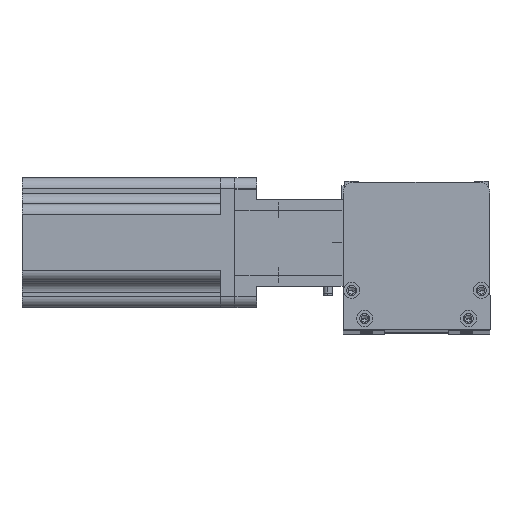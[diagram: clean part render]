
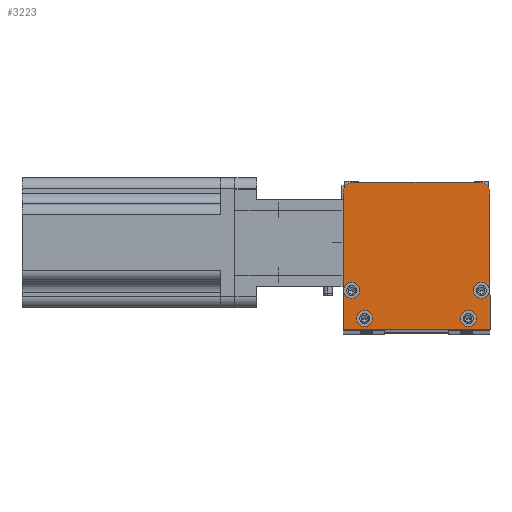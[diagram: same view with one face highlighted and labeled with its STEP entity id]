
A CAD part, top view. The second image highlights one B-rep face of the part: STEP entity #3223.
In plain terms, the highlighted planar face has unit normal (0, 0, 1) as drawn and (0, 0, -1) by its records, which use the part's own axes.
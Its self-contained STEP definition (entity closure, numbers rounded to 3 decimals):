
#271 = CARTESIAN_POINT ( 'NONE',  ( 63., 68., 0. ) ) ;
#816 = EDGE_LOOP ( 'NONE', ( #30148, #19702 ) ) ;
#979 = DIRECTION ( 'NONE',  ( 0., 0., -1. ) ) ;
#1112 = EDGE_CURVE ( 'NONE', #3498, #6331, #5614, .T. ) ;
#1460 = DIRECTION ( 'NONE',  ( 0., 1., 0. ) ) ;
#1582 = CIRCLE ( 'NONE', #14290, 3.75 ) ;
#1608 = CIRCLE ( 'NONE', #9067, 3.75 ) ;
#1624 = CARTESIAN_POINT ( 'NONE',  ( 10., 5., 0. ) ) ;
#1726 = DIRECTION ( 'NONE',  ( -1., 0., 0. ) ) ;
#1939 = VERTEX_POINT ( 'NONE', #13051 ) ;
#2523 = FACE_BOUND ( 'NONE', #6351, .T. ) ;
#2630 = AXIS2_PLACEMENT_3D ( 'NONE', #15929, #16876, #15136 ) ;
#3118 = EDGE_CURVE ( 'NONE', #23525, #24427, #11024, .T. ) ;
#3187 = DIRECTION ( 'NONE',  ( 0., 0., -1. ) ) ;
#3223 = ADVANCED_FACE ( 'NONE', ( #2523, #15002, #8847, #27305, #26590 ), #15537, .F. ) ;
#3498 = VERTEX_POINT ( 'NONE', #271 ) ;
#3578 = CARTESIAN_POINT ( 'NONE',  ( 54.25, 5., 0. ) ) ;
#3676 = AXIS2_PLACEMENT_3D ( 'NONE', #13279, #29469, #15589 ) ;
#3979 = DIRECTION ( 'NONE',  ( -1., 0., 0. ) ) ;
#4107 = VERTEX_POINT ( 'NONE', #22269 ) ;
#4641 = EDGE_CURVE ( 'NONE', #7167, #7386, #6593, .T. ) ;
#4731 = CARTESIAN_POINT ( 'NONE',  ( 67.75, 18., 0. ) ) ;
#5017 = CIRCLE ( 'NONE', #19453, 5. ) ;
#5132 = CARTESIAN_POINT ( 'NONE',  ( 61.75, 5., 0. ) ) ;
#5614 = LINE ( 'NONE', #27042, #11136 ) ;
#5906 = EDGE_CURVE ( 'NONE', #29923, #23812, #30113, .T. ) ;
#6202 = DIRECTION ( 'NONE',  ( 0., -1., 0. ) ) ;
#6331 = VERTEX_POINT ( 'NONE', #9894 ) ;
#6351 = EDGE_LOOP ( 'NONE', ( #16657, #9268 ) ) ;
#6593 = CIRCLE ( 'NONE', #7640, 3.75 ) ;
#6717 = EDGE_LOOP ( 'NONE', ( #10602, #13992 ) ) ;
#6968 = CARTESIAN_POINT ( 'NONE',  ( 68., 63., 0. ) ) ;
#7074 = DIRECTION ( 'NONE',  ( 1., 0., 0. ) ) ;
#7167 = VERTEX_POINT ( 'NONE', #5132 ) ;
#7344 = CARTESIAN_POINT ( 'NONE',  ( 68., 0., 0. ) ) ;
#7386 = VERTEX_POINT ( 'NONE', #3578 ) ;
#7589 = EDGE_CURVE ( 'NONE', #1939, #4107, #1608, .T. ) ;
#7640 = AXIS2_PLACEMENT_3D ( 'NONE', #18365, #18392, #18286 ) ;
#7727 = CARTESIAN_POINT ( 'NONE',  ( 58., 5., 0. ) ) ;
#8032 = CARTESIAN_POINT ( 'NONE',  ( 60.25, 18., 0. ) ) ;
#8847 = FACE_BOUND ( 'NONE', #9375, .T. ) ;
#9067 = AXIS2_PLACEMENT_3D ( 'NONE', #11391, #27585, #13732 ) ;
#9268 = ORIENTED_EDGE ( 'NONE', *, *, #20690, .F. ) ;
#9343 = CARTESIAN_POINT ( 'NONE',  ( 68., 0., 0. ) ) ;
#9375 = EDGE_LOOP ( 'NONE', ( #18171, #16655 ) ) ;
#9488 = CIRCLE ( 'NONE', #26774, 3.75 ) ;
#9894 = CARTESIAN_POINT ( 'NONE',  ( 5., 68., 0. ) ) ;
#10061 = CIRCLE ( 'NONE', #23733, 3.75 ) ;
#10077 = DIRECTION ( 'NONE',  ( -1., 0., 0. ) ) ;
#10602 = ORIENTED_EDGE ( 'NONE', *, *, #25227, .F. ) ;
#10829 = CARTESIAN_POINT ( 'NONE',  ( 0., 0., 0. ) ) ;
#11024 = CIRCLE ( 'NONE', #15772, 3.75 ) ;
#11025 = ORIENTED_EDGE ( 'NONE', *, *, #5906, .F. ) ;
#11136 = VECTOR ( 'NONE', #27003, 1000. ) ;
#11391 = CARTESIAN_POINT ( 'NONE',  ( 10., 5., 0. ) ) ;
#11846 = DIRECTION ( 'NONE',  ( 0., 0., -1. ) ) ;
#13051 = CARTESIAN_POINT ( 'NONE',  ( 6.25, 5., 0. ) ) ;
#13279 = CARTESIAN_POINT ( 'NONE',  ( 64., 18., 0. ) ) ;
#13732 = DIRECTION ( 'NONE',  ( -1., 0., 0. ) ) ;
#13992 = ORIENTED_EDGE ( 'NONE', *, *, #17378, .F. ) ;
#14290 = AXIS2_PLACEMENT_3D ( 'NONE', #1624, #17973, #3979 ) ;
#14359 = CARTESIAN_POINT ( 'NONE',  ( 0.25, 18., 0. ) ) ;
#14989 = VECTOR ( 'NONE', #6202, 1000. ) ;
#14999 = CARTESIAN_POINT ( 'NONE',  ( 4., 18., 0. ) ) ;
#15002 = FACE_BOUND ( 'NONE', #6717, .T. ) ;
#15013 = EDGE_CURVE ( 'NONE', #7386, #7167, #9488, .T. ) ;
#15045 = ORIENTED_EDGE ( 'NONE', *, *, #24429, .T. ) ;
#15099 = ORIENTED_EDGE ( 'NONE', *, *, #23832, .F. ) ;
#15136 = DIRECTION ( 'NONE',  ( 1., 0., 0. ) ) ;
#15353 = CIRCLE ( 'NONE', #3676, 3.75 ) ;
#15537 = PLANE ( 'NONE',  #2630 ) ;
#15563 = ORIENTED_EDGE ( 'NONE', *, *, #26745, .F. ) ;
#15589 = DIRECTION ( 'NONE',  ( -1., 0., 0. ) ) ;
#15767 = DIRECTION ( 'NONE',  ( 0., 0., -1. ) ) ;
#15772 = AXIS2_PLACEMENT_3D ( 'NONE', #21104, #21005, #20900 ) ;
#15929 = CARTESIAN_POINT ( 'NONE',  ( 0., 0., 0. ) ) ;
#16655 = ORIENTED_EDGE ( 'NONE', *, *, #24818, .F. ) ;
#16657 = ORIENTED_EDGE ( 'NONE', *, *, #3118, .F. ) ;
#16876 = DIRECTION ( 'NONE',  ( 0., 0., 1. ) ) ;
#17030 = ORIENTED_EDGE ( 'NONE', *, *, #1112, .F. ) ;
#17208 = CARTESIAN_POINT ( 'NONE',  ( 5., 63., 0. ) ) ;
#17316 = DIRECTION ( 'NONE',  ( -1., 0., 0. ) ) ;
#17378 = EDGE_CURVE ( 'NONE', #19737, #24515, #10061, .T. ) ;
#17973 = DIRECTION ( 'NONE',  ( 0., 0., -1. ) ) ;
#18171 = ORIENTED_EDGE ( 'NONE', *, *, #7589, .F. ) ;
#18286 = DIRECTION ( 'NONE',  ( -1., 0., 0. ) ) ;
#18365 = CARTESIAN_POINT ( 'NONE',  ( 58., 5., 0. ) ) ;
#18392 = DIRECTION ( 'NONE',  ( 0., 0., -1. ) ) ;
#18648 = EDGE_LOOP ( 'NONE', ( #15563, #27182, #17030, #15045, #11025, #15099 ) ) ;
#19324 = AXIS2_PLACEMENT_3D ( 'NONE', #29643, #15767, #1726 ) ;
#19453 = AXIS2_PLACEMENT_3D ( 'NONE', #17208, #3187, #19517 ) ;
#19513 = LINE ( 'NONE', #9343, #23531 ) ;
#19517 = DIRECTION ( 'NONE',  ( 1., 0., 0. ) ) ;
#19607 = VERTEX_POINT ( 'NONE', #28739 ) ;
#19702 = ORIENTED_EDGE ( 'NONE', *, *, #4641, .F. ) ;
#19737 = VERTEX_POINT ( 'NONE', #29128 ) ;
#20690 = EDGE_CURVE ( 'NONE', #24427, #23525, #15353, .T. ) ;
#20900 = DIRECTION ( 'NONE',  ( -1., 0., 0. ) ) ;
#21005 = DIRECTION ( 'NONE',  ( 0., 0., -1. ) ) ;
#21104 = CARTESIAN_POINT ( 'NONE',  ( 64., 18., 0. ) ) ;
#22061 = CIRCLE ( 'NONE', #24779, 5. ) ;
#22269 = CARTESIAN_POINT ( 'NONE',  ( 13.75, 5., 0. ) ) ;
#22432 = EDGE_CURVE ( 'NONE', #23533, #6331, #5017, .T. ) ;
#23525 = VERTEX_POINT ( 'NONE', #8032 ) ;
#23531 = VECTOR ( 'NONE', #7074, 1000. ) ;
#23533 = VERTEX_POINT ( 'NONE', #28908 ) ;
#23733 = AXIS2_PLACEMENT_3D ( 'NONE', #14999, #979, #17316 ) ;
#23812 = VERTEX_POINT ( 'NONE', #6968 ) ;
#23832 = EDGE_CURVE ( 'NONE', #19607, #29923, #19513, .T. ) ;
#23955 = DIRECTION ( 'NONE',  ( 0., 0., -1. ) ) ;
#23965 = VECTOR ( 'NONE', #1460, 1000. ) ;
#24427 = VERTEX_POINT ( 'NONE', #4731 ) ;
#24429 = EDGE_CURVE ( 'NONE', #3498, #23812, #22061, .T. ) ;
#24515 = VERTEX_POINT ( 'NONE', #14359 ) ;
#24722 = CARTESIAN_POINT ( 'NONE',  ( 68., 0., 0. ) ) ;
#24779 = AXIS2_PLACEMENT_3D ( 'NONE', #25707, #11846, #28037 ) ;
#24818 = EDGE_CURVE ( 'NONE', #4107, #1939, #1582, .T. ) ;
#24882 = CIRCLE ( 'NONE', #19324, 3.75 ) ;
#25227 = EDGE_CURVE ( 'NONE', #24515, #19737, #24882, .T. ) ;
#25707 = CARTESIAN_POINT ( 'NONE',  ( 63., 63., 0. ) ) ;
#26590 = FACE_OUTER_BOUND ( 'NONE', #18648, .T. ) ;
#26745 = EDGE_CURVE ( 'NONE', #23533, #19607, #28035, .T. ) ;
#26774 = AXIS2_PLACEMENT_3D ( 'NONE', #7727, #23955, #10077 ) ;
#27003 = DIRECTION ( 'NONE',  ( -1., 0., 0. ) ) ;
#27042 = CARTESIAN_POINT ( 'NONE',  ( 68., 68., 0. ) ) ;
#27182 = ORIENTED_EDGE ( 'NONE', *, *, #22432, .T. ) ;
#27305 = FACE_BOUND ( 'NONE', #816, .T. ) ;
#27585 = DIRECTION ( 'NONE',  ( 0., 0., -1. ) ) ;
#28035 = LINE ( 'NONE', #10829, #14989 ) ;
#28037 = DIRECTION ( 'NONE',  ( 1., 0., 0. ) ) ;
#28739 = CARTESIAN_POINT ( 'NONE',  ( 0., 0., 0. ) ) ;
#28908 = CARTESIAN_POINT ( 'NONE',  ( 0., 63., 0. ) ) ;
#29128 = CARTESIAN_POINT ( 'NONE',  ( 7.75, 18., 0. ) ) ;
#29469 = DIRECTION ( 'NONE',  ( 0., 0., -1. ) ) ;
#29643 = CARTESIAN_POINT ( 'NONE',  ( 4., 18., 0. ) ) ;
#29923 = VERTEX_POINT ( 'NONE', #7344 ) ;
#30113 = LINE ( 'NONE', #24722, #23965 ) ;
#30148 = ORIENTED_EDGE ( 'NONE', *, *, #15013, .F. ) ;
